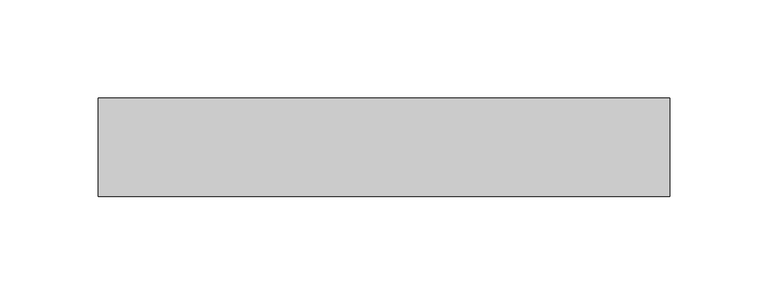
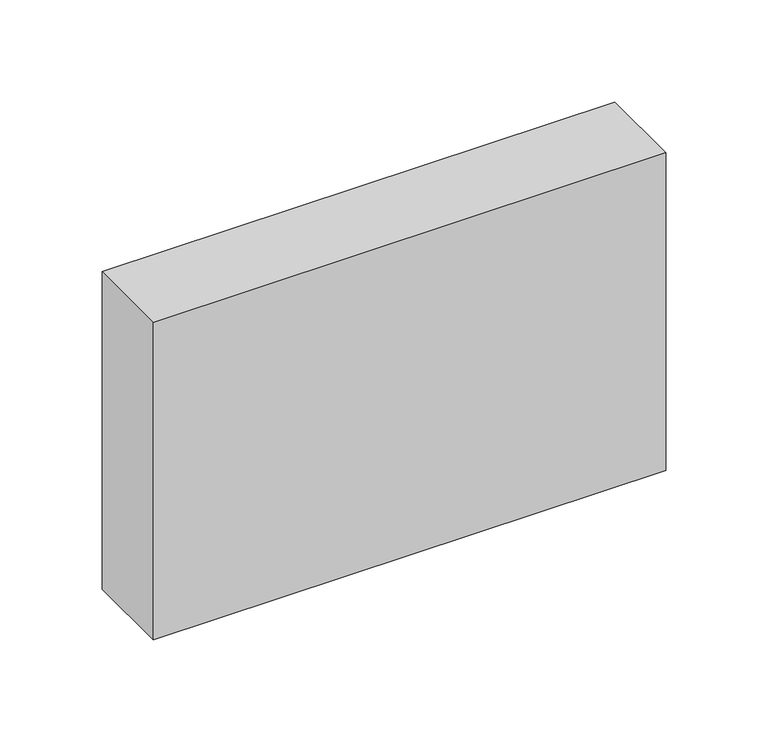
"""IFC4 building model written with IfcOpenShell, lengths in millimetres: light fixture geometry, LF_ОП_Эвакуационный _ОУ : LED_1Ст_IP54_2кз_3ч_ДПА5040_3_4Вт."""

from ifc_helpers import new_model, si_unit, frame, origin, place, context, project, spatial, polyline, outline, extrude, source, transform, mapped, element, save


def light_fixture_a752d895(model_context):
    return source(origin(), model_context, "Body", "SweptSolid", [
        extrude(outline(polyline([(-145.0, 50.0), (145.0, 50.0), (145.0, 0.0), (-145.0, 0.0), (-145.0, 50.0)])), frame((0.0, 0.0, -190.0), z_axis=(0.0, 0.0, 1.0), x_axis=(1.0, 0.0, 0.0)), (0.0, 0.0, 1.0), 190.0),
    ])


if __name__ == "__main__":
    model = new_model("IFC4")
    model_context = context("Model", 3, world=origin())
    ifc_project = project(units=[si_unit("LENGTHUNIT", "METRE", prefix="MILLI")], contexts=[model_context])
    site = spatial("IfcSite", under=ifc_project)
    building = spatial("IfcBuilding", under=site)
    placement = place(None, origin())
    light_fixture_shape = light_fixture_a752d895(model_context)
    element("IfcLightFixture", 1, ObjectType="LF_ОП_Эвакуационный _ОУ : LED_1Ст_IP54_2кз_3ч_ДПА5040_3_4Вт", at=placement, inside=building, context=model_context, shape_type="MappedRepresentation", body=[
        mapped(light_fixture_shape, transform((0.0, 0.0, 0.0), x_axis=(1.0, 0.0, 0.0), y_axis=(0.0, 1.0, 0.0), z_axis=(0.0, 0.0, 1.0))),
    ])
    save(model, "model.ifc")
